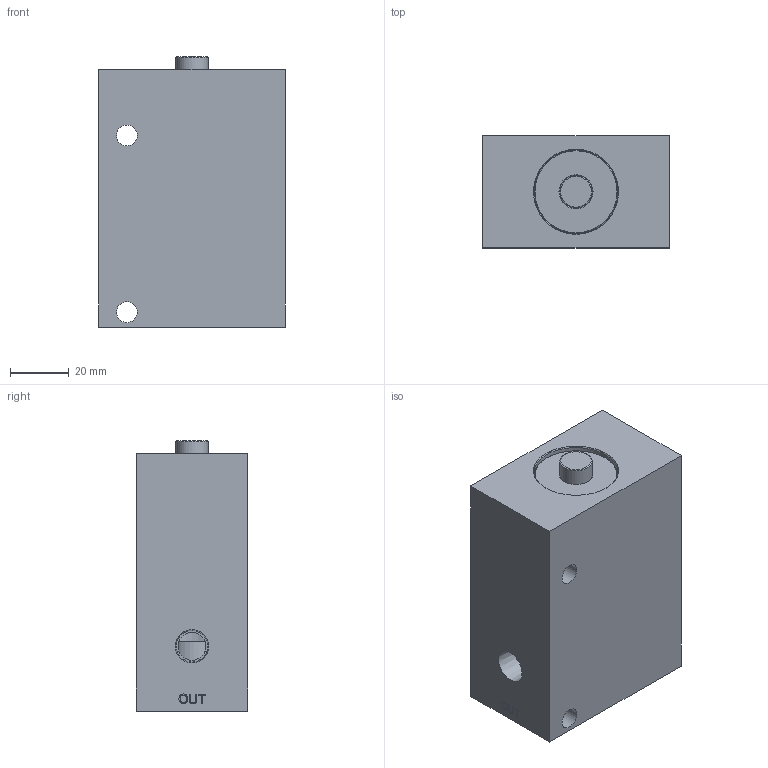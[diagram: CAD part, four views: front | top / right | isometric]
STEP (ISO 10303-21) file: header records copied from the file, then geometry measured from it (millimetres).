
FILE_DESCRIPTION(/* description */ (''),/* implementation_level */ '2;1');
FILE_NAME(/* name */ 'L:\ALADCO\Advertising\3D Content\Valves\Step Files - 2014-11-19 thru Present\40250X.stp',/* time_stamp */ '2014-11-19T16:08:26-06:00',/* author */ ('dmatz'),/* organization */ (''),/* preprocessor_version */ 'ST-DEVELOPER v15.2',/* originating_system */ 'Autodesk Inventor 2014',/* authorisation */ '');
FILE_SCHEMA (('AUTOMOTIVE_DESIGN { 1 0 10303 214 3 1 1 }'));
Length unit declared in the file: inch
Products named in the file (5): 552500NPTF; 311021; 311015; 301076; 502501
Bounding box: 63.5 x 38.1 x 92.2 mm (x, y, z)
Volume: 176158.1 mm3; surface area: 40205.6 mm2
Topology: 4 solids, 4 shells, 185 faces, 424 edges, 277 vertices
Faces by surface type: plane 99, cylinder 28, bspline 26, cone 18, torus 14
Full cylindrical faces by diameter (mm): 1.499 x1, 6.629 x1, 7.112 x2, 9.144 x1, 9.525 x2, 10.719 x3, 11.049 x2, 11.1 x1, 12.7 x1, 13.081 x1, 15.081 x1, 17.577 x1, 22.149 x1, 24.409 x1, 24.435 x1, 25.4 x2, 28.524 x4, 28.575 x2
Entity records: 5367 total; most frequent: CARTESIAN_POINT 1369, DIRECTION 710, ORIENTED_EDGE 684, EDGE_CURVE 342, EDGE_LOOP 292, VERTEX_POINT 258, AXIS2_PLACEMENT_3D 255, LINE 200
